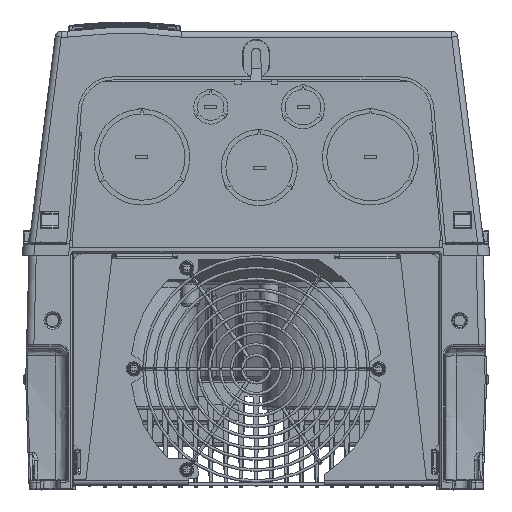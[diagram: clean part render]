
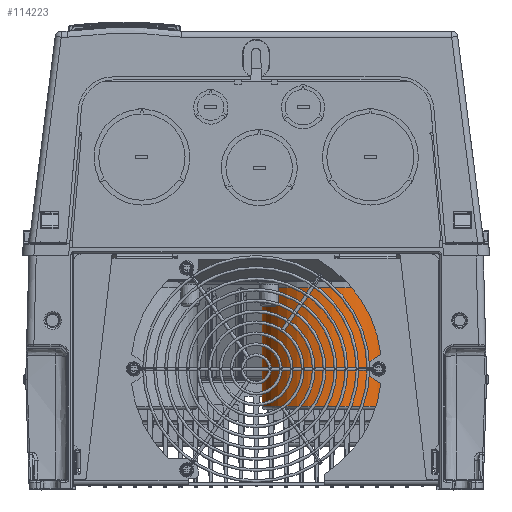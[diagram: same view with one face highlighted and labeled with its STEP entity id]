
A CAD part, front view. The second image highlights one B-rep face of the part: STEP entity #114223.
In plain terms, the highlighted cylindrical face has radius 46.1 mm (diameter 92.2 mm), a partial arc.
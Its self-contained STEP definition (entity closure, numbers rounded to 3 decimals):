
#19496=CARTESIAN_POINT('',(50.,-201.5,-104.813));
#19497=DIRECTION('',(0.,0.,1.));
#19498=DIRECTION('',(-1.,0.,0.));
#19499=AXIS2_PLACEMENT_3D('',#19496,#19497,#19498);
#19501=CARTESIAN_POINT('',(50.,-201.5,-26.2));
#19502=DIRECTION('',(0.,0.,-1.));
#19503=DIRECTION('',(0.,-1.,0.));
#19504=AXIS2_PLACEMENT_3D('',#19501,#19502,#19503);
#19506=CARTESIAN_POINT('',(50.,-201.5,-26.2));
#19507=DIRECTION('',(0.,0.,-1.));
#19508=DIRECTION('',(1.,0.,0.));
#19509=AXIS2_PLACEMENT_3D('',#19506,#19507,#19508);
#19511=DIRECTION('',(0.,0.,-1.));
#19512=VECTOR('',#19511,78.613);
#19513=CARTESIAN_POINT('',(96.1,-201.5,-26.2));
#19514=LINE('',#19513,#19512);
#19540=DIRECTION('',(0.,0.,-1.));
#19541=VECTOR('',#19540,78.613);
#19542=CARTESIAN_POINT('',(3.9,-201.5,-26.2));
#19543=LINE('',#19542,#19541);
#75899=CARTESIAN_POINT('',(96.1,-201.5,-26.2));
#75900=CARTESIAN_POINT('',(50.,-247.6,-26.2));
#75901=VERTEX_POINT('',#75899);
#75902=VERTEX_POINT('',#75900);
#75903=CARTESIAN_POINT('',(3.9,-201.5,-26.2));
#75904=VERTEX_POINT('',#75903);
#75933=CARTESIAN_POINT('',(96.1,-201.5,-104.813));
#75934=CARTESIAN_POINT('',(3.9,-201.5,-104.813));
#75935=VERTEX_POINT('',#75933);
#75936=VERTEX_POINT('',#75934);
#114207=CARTESIAN_POINT('',(50.,-201.5,3.));
#114208=DIRECTION('',(0.,0.,-1.));
#114209=DIRECTION('',(1.,0.,0.));
#114210=AXIS2_PLACEMENT_3D('',#114207,#114208,#114209);
#114211=CYLINDRICAL_SURFACE('',#114210,46.1);
#114213=ORIENTED_EDGE('',*,*,#114212,.F.);
#114215=ORIENTED_EDGE('',*,*,#114214,.F.);
#114216=ORIENTED_EDGE('',*,*,#114195,.F.);
#114218=ORIENTED_EDGE('',*,*,#114217,.F.);
#114220=ORIENTED_EDGE('',*,*,#114219,.T.);
#114221=EDGE_LOOP('',(#114213,#114215,#114216,#114218,#114220));
#114222=FACE_OUTER_BOUND('',#114221,.F.);
#19500=CIRCLE('',#19499,46.1);
#19505=CIRCLE('',#19504,46.1);
#19510=CIRCLE('',#19509,46.1);
#114195=EDGE_CURVE('',#75902,#75904,#19505,.T.);
#114212=EDGE_CURVE('',#75936,#75935,#19500,.T.);
#114214=EDGE_CURVE('',#75904,#75936,#19543,.T.);
#114217=EDGE_CURVE('',#75901,#75902,#19510,.T.);
#114219=EDGE_CURVE('',#75901,#75935,#19514,.T.);
#114223=ADVANCED_FACE('',(#114222),#114211,.T.);
